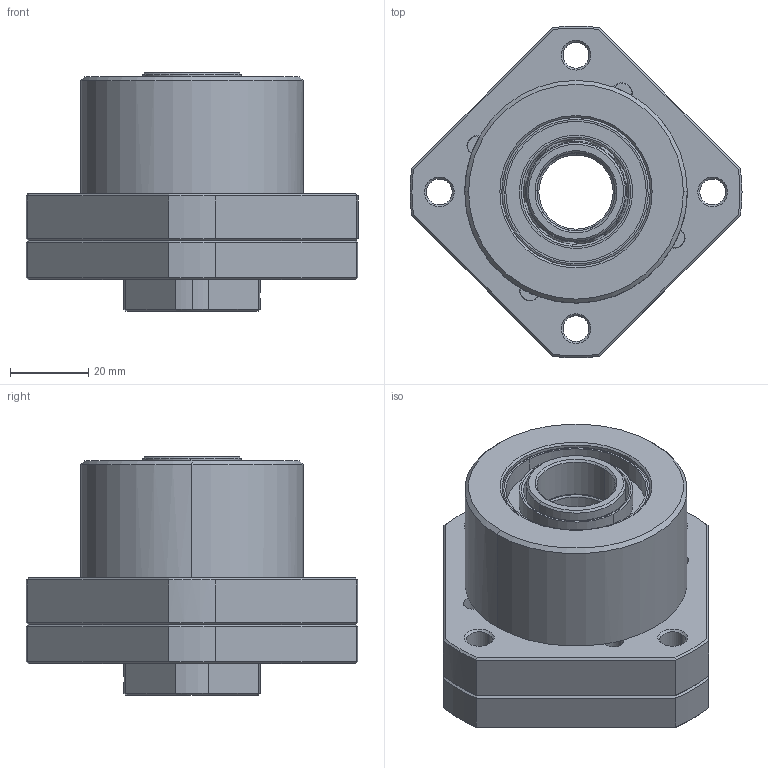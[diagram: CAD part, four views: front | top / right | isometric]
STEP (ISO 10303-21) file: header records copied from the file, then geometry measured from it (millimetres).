
FILE_DESCRIPTION (( 'STEP AP203' ), '1' );
FILE_NAME ('FK20²Õ¦X¥ó.STEP', '2022-01-21T07:46:41', ( '' ), ( '' ), 'SwSTEP 2.0', 'SolidWorks 2018', '' );
FILE_SCHEMA (( 'CONFIG_CONTROL_DESIGN' ));
Length unit declared in the file: millimetre
Products named in the file (12): 7204外圈; 7204保持器; 7204內圈; 7204鋼珠7.9375; 7204; FK20蓋_網路圖; FK系列密封圈_FK20密封圈; EAFK20; M20鎖固螺帽_M20; FK20油孔本體_網路; 市購品鎖固件沉頭M6_P10x12L; FK20組合件
Assembly tree (27 placements, depth 3):
  FK20組合件
    7204  x2
      7204外圈
      7204保持器
      7204內圈
      7204鋼珠7.9375
    FK20蓋_網路圖
    FK系列密封圈_FK20密封圈  x2
    EAFK20  x2
    M20鎖固螺帽_M20
    FK20油孔本體_網路
    市購品鎖固件沉頭M6_P10x12L  x4
Bounding box: 85 x 84.9 x 61 mm (x, y, z)
Volume: 134503.6 mm3; surface area: 76375.6 mm2
Topology: 39 solids, 39 shells, 678 faces, 1677 edges, 1036 vertices
Faces by surface type: cylinder 284, plane 126, torus 108, cone 96, sphere 44, bspline 20
Entity records: 16365 total; most frequent: CARTESIAN_POINT 6131, DIRECTION 1879, ORIENTED_EDGE 1726, EDGE_CURVE 863, AXIS2_PLACEMENT_3D 798, VERTEX_POINT 521, EDGE_LOOP 448, CIRCLE 407
